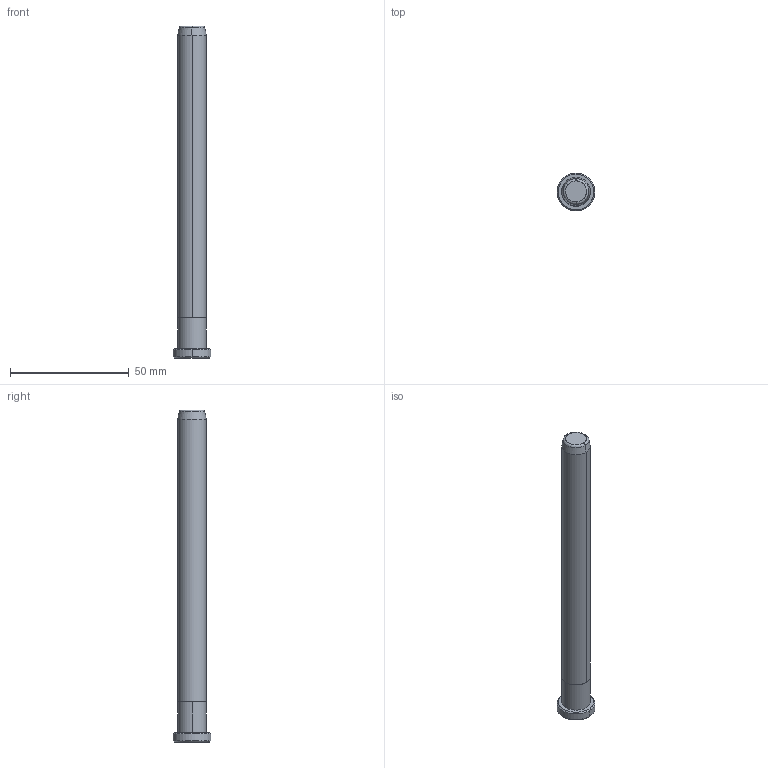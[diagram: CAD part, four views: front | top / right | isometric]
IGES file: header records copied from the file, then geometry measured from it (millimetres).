
Start section: START RECORD GO HERE.
Global section: file name: B82812140.igs; native system: DASSAULT SYSTEMES CATIA V5 R20 - www.3ds.com; preprocessor: CATIA Version 5 Release 20 ; author: Utente; organization: NB04-ASUS; date: 20200419.173801; units: millimetre
Bounding box: 16 x 16 x 140 mm (x, y, z)
Surface area: 5659.6 mm2 (no closed solid volume)
Topology: 0 solids, 0 shells, 20 faces, 80 edges, 80 vertices
Faces by surface type: revolution 16, plane 4
